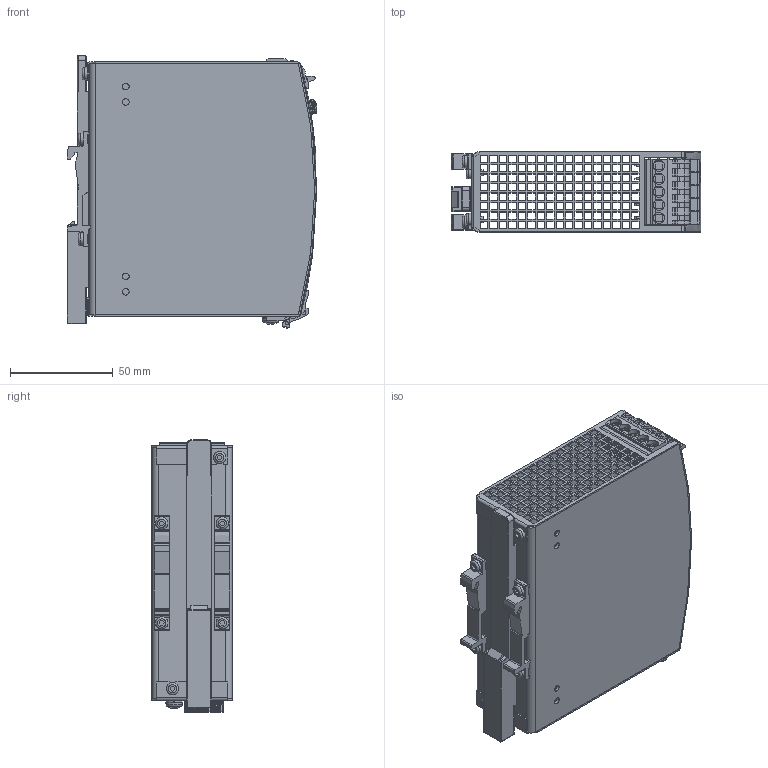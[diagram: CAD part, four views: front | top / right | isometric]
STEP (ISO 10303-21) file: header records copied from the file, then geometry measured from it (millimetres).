
FILE_DESCRIPTION(/* description */ ('HOUSING BODY','CAx-IF Rec.Pracs.---Representation and Presentation of Product Manufacturing Information (PMI)---3.8---2014-02-18'),/* implementation_level */ '2;1');
FILE_NAME(/* name */ 'L:\MKT-GER\Neue Webdokumente\Daten von KO\CP10.241-60 (410.76)\md3_cp10_241-60.stp',/* time_stamp */ '2017-08-22T11:36:58+02:00',/* author */ ('rahns'),/* organization */ (''),/* preprocessor_version */ 'ST-DEVELOPER v16.1',/* originating_system */ 'Autodesk Inventor 2016',/* authorisation */ '');
FILE_SCHEMA (('AP242_MANAGED_MODEL_BASED_3D_ENGINEERING_MIM_LF { 1 0 10303 442 1 1 4 }'));
Products named in the file (14): HOUSING BODY 410.01; HOUSING COVER 410.06; FRONTFOIL 410.76; MKT_SLIDER; MKT_SCREW 3x6; MKT_T HOLDER; MKT_SCREW 4x8; MKT_WASHER 4; MKT_LP2SW-R6; MKT_LED GN; MKT_POTI COVER; MKT_LP3BK-DC; MKT_LP5BK-DC; 410.76
Assembly tree (19 placements, depth 2):
  410.76
    HOUSING BODY 410.01
    HOUSING COVER 410.06
    FRONTFOIL 410.76
    MKT_SLIDER
    MKT_SCREW 3x6  x6
    MKT_T HOLDER  x2
    MKT_SCREW 4x8
    MKT_WASHER 4
    MKT_LP2SW-R6
    MKT_LED GN
    MKT_POTI COVER
    MKT_LP3BK-DC
    MKT_LP5BK-DC
Bounding box: 121.7 x 39 x 132.54 mm (x, y, z)
Volume: 83866.4 mm3; surface area: 109105.1 mm2
Topology: 20 solids, 60 shells, 3632 faces, 10208 edges, 6773 vertices
Faces by surface type: plane 2621, cylinder 593, bspline 259, torus 79, cone 51, sphere 29
Full cylindrical faces by diameter (mm): 0.3 x5, 1.5 x3, 2.2 x3, 2.45 x2, 2.7 x1, 3 x6, 3.1 x4, 3.2 x5, 3.5 x1, 3.621 x1, 4 x1, 4.355 x1, 4.5 x1, 4.6 x1, 5.5 x5, 6 x6
Entity records: 119944 total; most frequent: CARTESIAN_POINT 28249, ORIENTED_EDGE 19532, DIRECTION 17220, EDGE_CURVE 9766, LINE 7484, VECTOR 7484, VERTEX_POINT 6502, AXIS2_PLACEMENT_3D 4868
